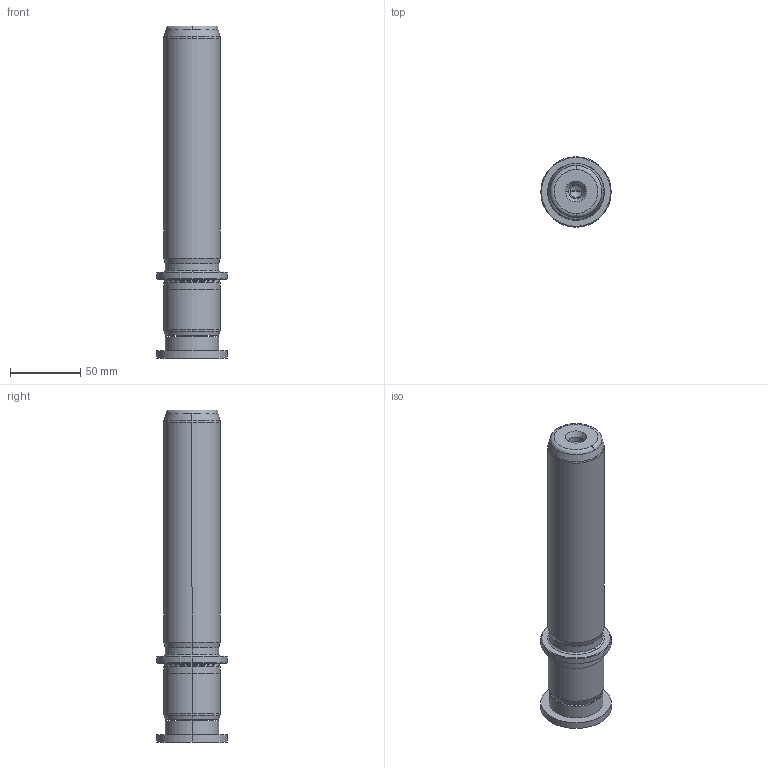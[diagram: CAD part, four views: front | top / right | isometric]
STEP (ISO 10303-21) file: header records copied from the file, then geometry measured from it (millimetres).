
FILE_DESCRIPTION((''),'2;1');
FILE_NAME('P22_040_180.stp','2009-02-16T10:20:22',(''),(''),'Mechanical Desktop 2009','Mechanical Desktop 2009',', , ');
FILE_SCHEMA(('CONFIG_CONTROL_DESIGN'));
Length unit declared in the file: millimetre
Products named in the file (2): Product; blmdl1
Assembly tree (1 placements, depth 2):
  Product
    blmdl1
Bounding box: 50 x 50 x 236 mm (x, y, z)
Volume: 295171.7 mm3; surface area: 41065.7 mm2
Topology: 3 solids, 3 shells, 99 faces, 237 edges, 149 vertices
Faces by surface type: cylinder 32, cone 28, plane 19, torus 10, bspline 10
Entity records: 3419 total; most frequent: CARTESIAN_POINT 923, DIRECTION 570, ORIENTED_EDGE 466, AXIS2_PLACEMENT_3D 246, EDGE_CURVE 233, CIRCLE 155, VERTEX_POINT 149, EDGE_LOOP 110
